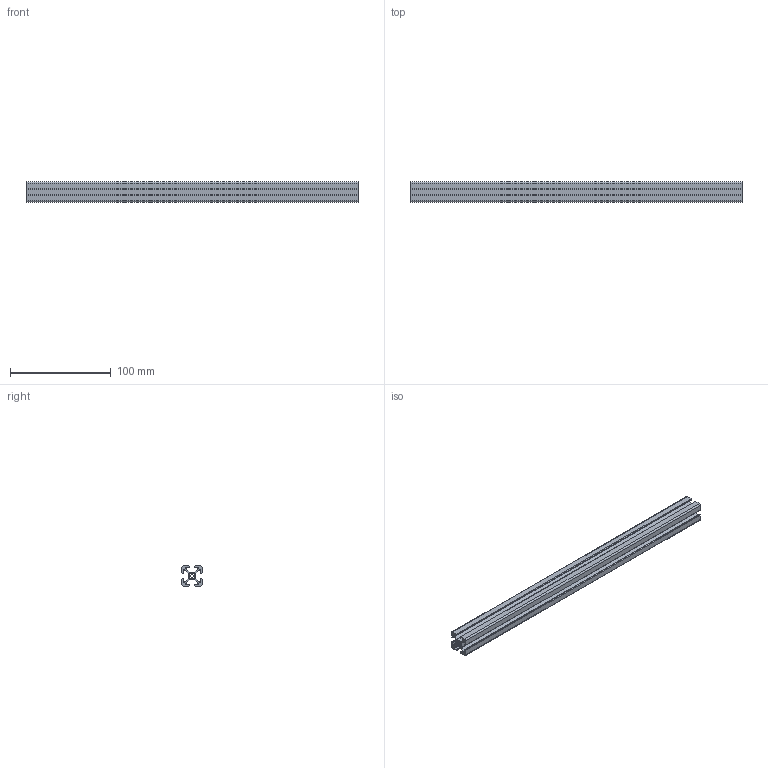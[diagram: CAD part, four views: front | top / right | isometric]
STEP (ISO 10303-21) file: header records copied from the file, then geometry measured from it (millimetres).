
FILE_DESCRIPTION(/* description */ ('STEP AP242 Edition 2','CAx-IF Rec.Pracs.---Representation and Presentation of Product Manufacturing Information (PMI)---4.0---2014-10-13','CAx-IF Rec.Pracs.---3D Tessellated Geometry---0.4---2014-09-14','2;1','CAx-IF Rec.Pracs.---User Defined Attributes---1.5---2016-08-15'),/* implementation_level */ '2;1');
FILE_NAME(/* name */ 'Assembly 1 - Part 5',/* time_stamp */ '2026-10-08T06:00:17Z',/* author */ (''),/* organization */ (''),/* preprocessor_version */ 'ST-DEVELOPER v20',/* originating_system */ 'ONSHAPE BY PTC INC, 1.221',/* authorisation */ ' ');
FILE_SCHEMA (('AP242_MANAGED_MODEL_BASED_3D_ENGINEERING_MIM_LF { 1 0 10303 442 3 1 4 }'));
Length unit declared in the file: metre
Products named in the file (1): Part 5
Bounding box: 330 x 20 x 20 mm (x, y, z)
Volume: 53623.4 mm3; surface area: 60040.7 mm2
Topology: 1 solids, 1 shells, 106 faces, 318 edges, 214 vertices
Faces by surface type: bspline 106
Entity records: 3822 total; most frequent: CARTESIAN_POINT 1181, ORIENTED_EDGE 636, DIRECTION 438, EDGE_CURVE 318, VERTEX_POINT 214, LINE 200, VECTOR 200, AXIS2_PLACEMENT_3D 119
